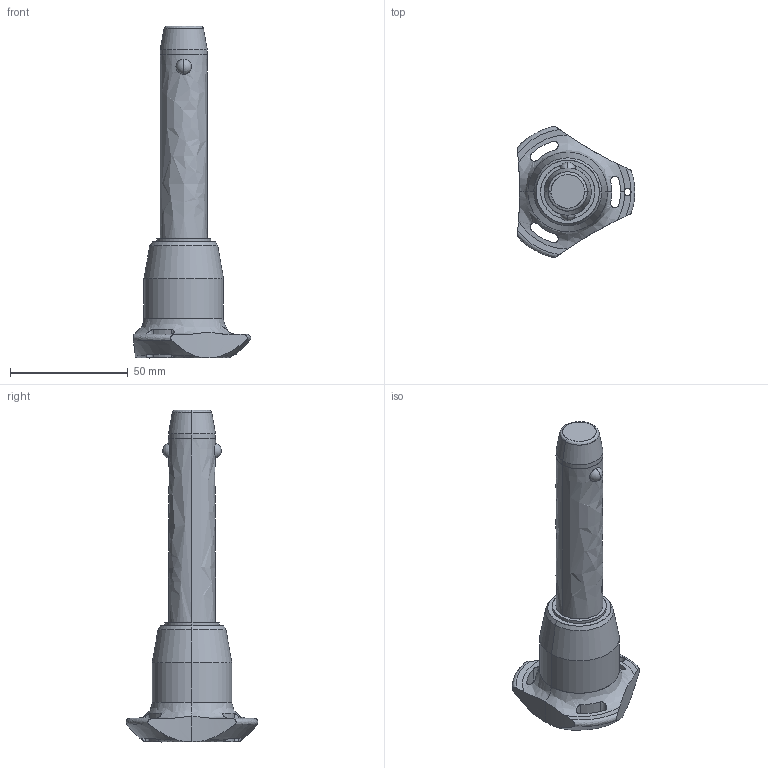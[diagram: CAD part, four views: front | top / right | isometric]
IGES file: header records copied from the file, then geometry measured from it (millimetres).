
Start section: SolidWorks IGES file using analytic representation for surfaces
Global section: file name: C:\Users\ianosborn\Desktop\QR1736_v2\QR1736_v2_20251115_IGES\QR1736.M20-070-T.igs; native system: SolidWorks 2019; preprocessor: SolidWorks 2019; author: IanOsborn; date: 251113.121133; units: millimetre
Bounding box: 50.04 x 56.02 x 141.2 mm (x, y, z)
Surface area: 15365.9 mm2 (no closed solid volume)
Topology: 0 solids, 0 shells, 68 faces, 1382 edges, 1378 vertices
Faces by surface type: revolution 52, bspline 16
